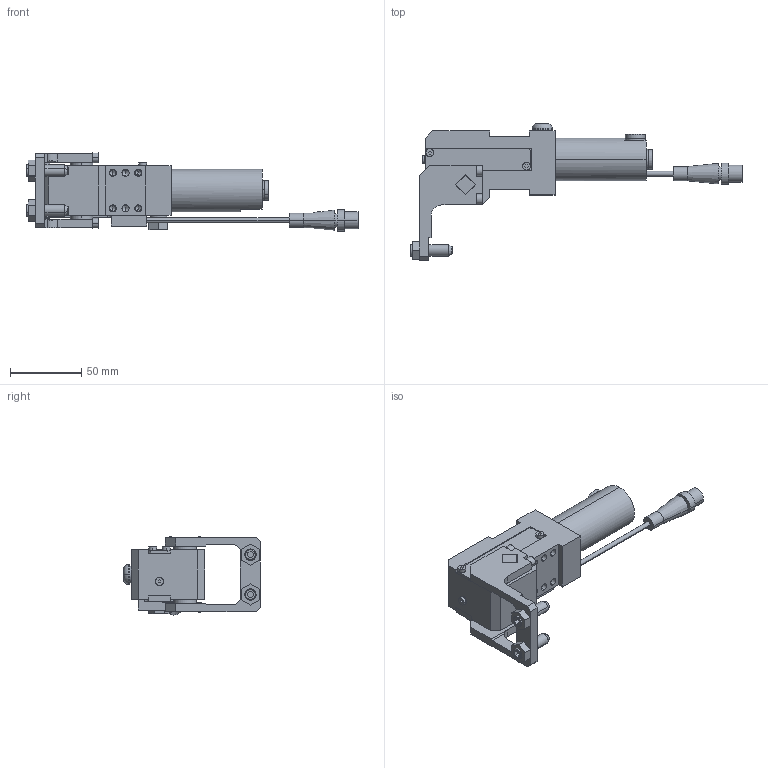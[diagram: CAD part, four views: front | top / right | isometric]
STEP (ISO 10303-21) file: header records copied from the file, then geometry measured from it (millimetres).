
FILE_DESCRIPTION (( 'STEP AP214' ), '1' );
FILE_NAME ('c25g2i_c.STEP', '2014-03-17T08:50:34', ( 'vep' ), ( 'TOSHIBA' ), 'SwSTEP 2.0', 'SolidWorks 2013', '' );
FILE_SCHEMA (( 'AUTOMOTIVE_DESIGN' ));
Length unit declared in the file: millimetre
Products named in the file (11): dado_basso_m8_din936_1_154; nipplo_cpr25; finecorsa_cpr25; gruppo_montante_cpr25; riparo_G20; tappo G1_8 din908; vite_m8x30_zig_3_080; rondella_di_tenuta_G1_8; c25g2i_c; leva_g2_cpr25; vite_m8x8_iso7380
Assembly tree (14 placements, depth 2):
  c25g2i_c
    gruppo_montante_cpr25
    nipplo_cpr25
    vite_m8x8_iso7380
    rondella_di_tenuta_G1_8  x2
    tappo G1_8 din908  x2
    riparo_G20
    finecorsa_cpr25
    dado_basso_m8_din936_1_154  x2
    leva_g2_cpr25
    vite_m8x30_zig_3_080  x2
Bounding box: 233.5 x 96.2 x 55 mm (x, y, z)
Volume: 227179.2 mm3; surface area: 59902.7 mm2
Topology: 14 solids, 14 shells, 708 faces, 1596 edges, 964 vertices
Faces by surface type: plane 476, cylinder 188, cone 42, torus 2
Entity records: 17084 total; most frequent: DIRECTION 2809, CARTESIAN_POINT 2758, ORIENTED_EDGE 2566, EDGE_CURVE 1283, AXIS2_PLACEMENT_3D 964, LINE 881, VECTOR 881, VERTEX_POINT 809
